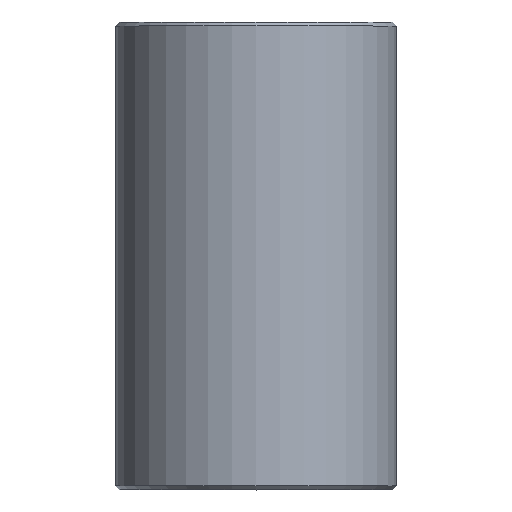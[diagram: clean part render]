
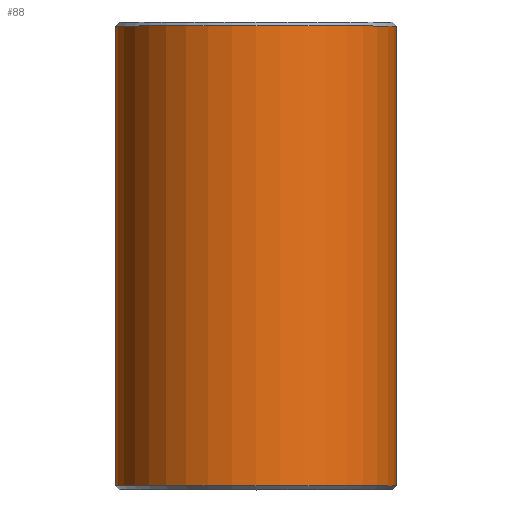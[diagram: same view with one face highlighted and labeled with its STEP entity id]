
A CAD part, top view. The second image highlights one B-rep face of the part: STEP entity #88.
In plain terms, the highlighted cylindrical face has radius 9 mm (diameter 18 mm), a full revolution.
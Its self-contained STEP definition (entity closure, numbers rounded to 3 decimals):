
#19=CYLINDRICAL_SURFACE('',#110,9.);
#22=FACE_OUTER_BOUND('',#28,.T.);
#28=EDGE_LOOP('',(#69,#70,#71,#72));
#36=LINE('',#159,#40);
#40=VECTOR('',#132,9.);
#43=CIRCLE('',#108,9.);
#45=CIRCLE('',#111,9.);
#49=VERTEX_POINT('',#151);
#51=VERTEX_POINT('',#157);
#55=EDGE_CURVE('',#49,#49,#43,.T.);
#58=EDGE_CURVE('',#51,#51,#45,.T.);
#59=EDGE_CURVE('',#51,#49,#36,.T.);
#69=ORIENTED_EDGE('',*,*,#58,.F.);
#70=ORIENTED_EDGE('',*,*,#59,.T.);
#71=ORIENTED_EDGE('',*,*,#55,.F.);
#72=ORIENTED_EDGE('',*,*,#59,.F.);
#88=ADVANCED_FACE('',(#22),#19,.T.);
#108=AXIS2_PLACEMENT_3D('',#152,#123,#124);
#110=AXIS2_PLACEMENT_3D('',#156,#128,#129);
#111=AXIS2_PLACEMENT_3D('',#158,#130,#131);
#123=DIRECTION('center_axis',(0.,-1.,0.));
#124=DIRECTION('ref_axis',(1.,0.,0.));
#128=DIRECTION('center_axis',(0.,1.,0.));
#129=DIRECTION('ref_axis',(1.,0.,0.));
#130=DIRECTION('center_axis',(0.,1.,0.));
#131=DIRECTION('ref_axis',(1.,0.,0.));
#132=DIRECTION('',(0.,-1.,0.));
#151=CARTESIAN_POINT('',(-9.,0.25,0.));
#152=CARTESIAN_POINT('Origin',(0.,0.25,0.));
#156=CARTESIAN_POINT('Origin',(0.,0.,0.));
#157=CARTESIAN_POINT('',(-9.,29.75,0.));
#158=CARTESIAN_POINT('Origin',(0.,29.75,0.));
#159=CARTESIAN_POINT('',(-9.,0.,0.));
